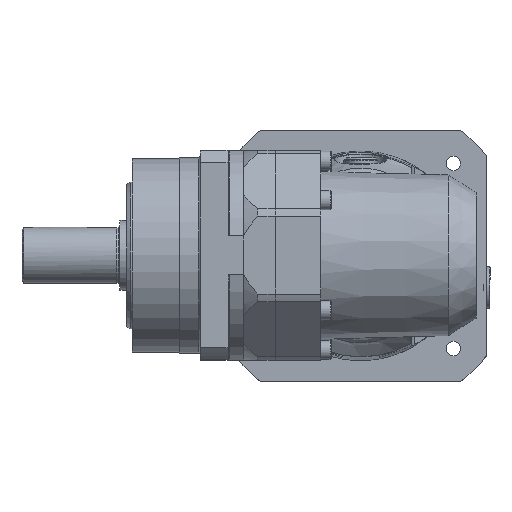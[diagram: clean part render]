
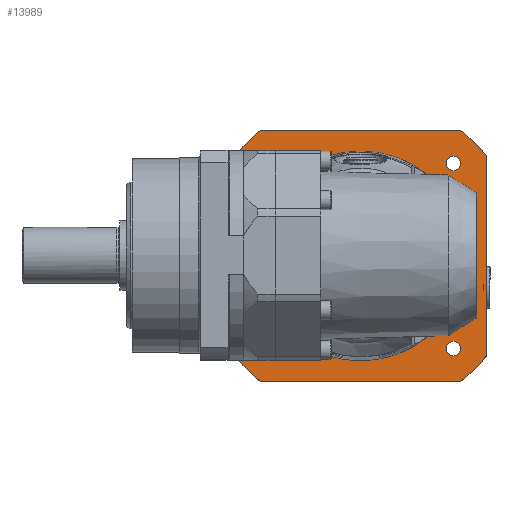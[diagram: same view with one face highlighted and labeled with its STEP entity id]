
A CAD part, top view. The second image highlights one B-rep face of the part: STEP entity #13989.
In plain terms, the highlighted planar face has unit normal (0, 0, 1) as drawn and (-1, 0, 0) by its records, which use the part's own axes.
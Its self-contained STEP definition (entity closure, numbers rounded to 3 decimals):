
#1042=FACE_BOUND('',#2999,.T.);
#1043=FACE_BOUND('',#3000,.T.);
#1044=FACE_BOUND('',#3001,.T.);
#1045=FACE_BOUND('',#3002,.T.);
#1046=FACE_BOUND('',#3003,.T.);
#1328=PLANE('',#16343);
#2053=FACE_OUTER_BOUND('',#2998,.T.);
#2998=EDGE_LOOP('',(#12775,#12776,#12777,#12778,#12779,#12780,#12781,#12782));
#2999=EDGE_LOOP('',(#12783));
#3000=EDGE_LOOP('',(#12784));
#3001=EDGE_LOOP('',(#12785));
#3002=EDGE_LOOP('',(#12786));
#3003=EDGE_LOOP('',(#12787,#12788));
#3816=LINE('',#27188,#4496);
#3819=LINE('',#27194,#4499);
#3822=LINE('',#27200,#4502);
#3825=LINE('',#27209,#4505);
#4496=VECTOR('',#20625,10.);
#4499=VECTOR('',#20630,10.);
#4502=VECTOR('',#20635,10.);
#4505=VECTOR('',#20646,10.);
#5543=CIRCLE('',#16344,46.);
#5544=CIRCLE('',#16345,46.);
#5545=CIRCLE('',#16346,46.);
#5546=CIRCLE('',#16347,46.);
#5547=CIRCLE('',#16348,2.067);
#5548=CIRCLE('',#16349,2.067);
#5549=CIRCLE('',#16350,2.067);
#5550=CIRCLE('',#16351,2.067);
#5551=CIRCLE('',#16352,30.);
#5552=CIRCLE('',#16353,30.);
#7034=VERTEX_POINT('',#27186);
#7035=VERTEX_POINT('',#27187);
#7036=VERTEX_POINT('',#27192);
#7037=VERTEX_POINT('',#27193);
#7038=VERTEX_POINT('',#27198);
#7039=VERTEX_POINT('',#27199);
#7040=VERTEX_POINT('',#27206);
#7041=VERTEX_POINT('',#27208);
#7042=VERTEX_POINT('',#27211);
#7043=VERTEX_POINT('',#27213);
#7044=VERTEX_POINT('',#27215);
#7045=VERTEX_POINT('',#27217);
#7046=VERTEX_POINT('',#27219);
#7047=VERTEX_POINT('',#27220);
#8974=EDGE_CURVE('',#7034,#7035,#3816,.T.);
#8977=EDGE_CURVE('',#7036,#7037,#3819,.T.);
#8980=EDGE_CURVE('',#7038,#7039,#3822,.T.);
#8983=EDGE_CURVE('',#7036,#7035,#5543,.T.);
#8984=EDGE_CURVE('',#7038,#7037,#5544,.T.);
#8985=EDGE_CURVE('',#7040,#7039,#5545,.T.);
#8986=EDGE_CURVE('',#7040,#7041,#3825,.T.);
#8987=EDGE_CURVE('',#7034,#7041,#5546,.T.);
#8988=EDGE_CURVE('',#7042,#7042,#5547,.T.);
#8989=EDGE_CURVE('',#7043,#7043,#5548,.T.);
#8990=EDGE_CURVE('',#7044,#7044,#5549,.T.);
#8991=EDGE_CURVE('',#7045,#7045,#5550,.T.);
#8992=EDGE_CURVE('',#7046,#7047,#5551,.T.);
#8993=EDGE_CURVE('',#7047,#7046,#5552,.T.);
#12775=ORIENTED_EDGE('',*,*,#8974,.T.);
#12776=ORIENTED_EDGE('',*,*,#8983,.F.);
#12777=ORIENTED_EDGE('',*,*,#8977,.T.);
#12778=ORIENTED_EDGE('',*,*,#8984,.F.);
#12779=ORIENTED_EDGE('',*,*,#8980,.T.);
#12780=ORIENTED_EDGE('',*,*,#8985,.F.);
#12781=ORIENTED_EDGE('',*,*,#8986,.T.);
#12782=ORIENTED_EDGE('',*,*,#8987,.F.);
#12783=ORIENTED_EDGE('',*,*,#8988,.T.);
#12784=ORIENTED_EDGE('',*,*,#8989,.T.);
#12785=ORIENTED_EDGE('',*,*,#8990,.T.);
#12786=ORIENTED_EDGE('',*,*,#8991,.T.);
#12787=ORIENTED_EDGE('',*,*,#8992,.T.);
#12788=ORIENTED_EDGE('',*,*,#8993,.T.);
#13989=ADVANCED_FACE('',(#2053,#1042,#1043,#1044,#1045,#1046),#1328,.T.);
#16343=AXIS2_PLACEMENT_3D('',#27203,#20638,#20639);
#16344=AXIS2_PLACEMENT_3D('',#27204,#20640,#20641);
#16345=AXIS2_PLACEMENT_3D('',#27205,#20642,#20643);
#16346=AXIS2_PLACEMENT_3D('',#27207,#20644,#20645);
#16347=AXIS2_PLACEMENT_3D('',#27210,#20647,#20648);
#16348=AXIS2_PLACEMENT_3D('',#27212,#20649,#20650);
#16349=AXIS2_PLACEMENT_3D('',#27214,#20651,#20652);
#16350=AXIS2_PLACEMENT_3D('',#27216,#20653,#20654);
#16351=AXIS2_PLACEMENT_3D('',#27218,#20655,#20656);
#16352=AXIS2_PLACEMENT_3D('',#27221,#20657,#20658);
#16353=AXIS2_PLACEMENT_3D('',#27222,#20659,#20660);
#20625=DIRECTION('',(0.,-0.707,-0.707));
#20630=DIRECTION('',(0.,-0.707,0.707));
#20635=DIRECTION('',(0.,0.707,0.707));
#20638=DIRECTION('center_axis',(-1.,0.,0.));
#20639=DIRECTION('ref_axis',(0.,0.,1.));
#20640=DIRECTION('center_axis',(1.,0.,0.));
#20641=DIRECTION('ref_axis',(0.,1.,0.));
#20642=DIRECTION('center_axis',(1.,0.,0.));
#20643=DIRECTION('ref_axis',(0.,1.,0.));
#20644=DIRECTION('center_axis',(1.,0.,0.));
#20645=DIRECTION('ref_axis',(0.,1.,0.));
#20646=DIRECTION('',(0.,0.707,-0.707));
#20647=DIRECTION('center_axis',(1.,0.,0.));
#20648=DIRECTION('ref_axis',(0.,1.,0.));
#20649=DIRECTION('center_axis',(1.,0.,0.));
#20650=DIRECTION('ref_axis',(0.,0.,-1.));
#20651=DIRECTION('center_axis',(1.,0.,0.));
#20652=DIRECTION('ref_axis',(0.,0.,-1.));
#20653=DIRECTION('center_axis',(1.,0.,0.));
#20654=DIRECTION('ref_axis',(0.,0.,-1.));
#20655=DIRECTION('center_axis',(1.,0.,0.));
#20656=DIRECTION('ref_axis',(0.,0.,-1.));
#20657=DIRECTION('center_axis',(1.,0.,0.));
#20658=DIRECTION('ref_axis',(0.,1.,0.));
#20659=DIRECTION('center_axis',(1.,0.,0.));
#20660=DIRECTION('ref_axis',(0.,1.,0.));
#27186=CARTESIAN_POINT('',(4.,45.704,-5.207));
#27187=CARTESIAN_POINT('',(4.,5.207,-45.704));
#27188=CARTESIAN_POINT('',(4.,45.08,-5.832));
#27192=CARTESIAN_POINT('',(4.,-5.207,-45.704));
#27193=CARTESIAN_POINT('',(4.,-45.704,-5.207));
#27194=CARTESIAN_POINT('',(4.,-5.832,-45.08));
#27198=CARTESIAN_POINT('',(4.,-45.704,5.207));
#27199=CARTESIAN_POINT('',(4.,-5.207,45.704));
#27200=CARTESIAN_POINT('',(4.,-26.08,24.832));
#27203=CARTESIAN_POINT('Origin',(4.,38.,0.));
#27204=CARTESIAN_POINT('Origin',(4.,0.,0.));
#27205=CARTESIAN_POINT('Origin',(4.,0.,0.));
#27206=CARTESIAN_POINT('',(4.,5.207,45.704));
#27207=CARTESIAN_POINT('Origin',(4.,0.,0.));
#27208=CARTESIAN_POINT('',(4.,45.704,5.207));
#27209=CARTESIAN_POINT('',(4.,24.832,26.08));
#27210=CARTESIAN_POINT('Origin',(4.,0.,0.));
#27211=CARTESIAN_POINT('',(4.,-37.5,2.067));
#27212=CARTESIAN_POINT('Origin',(4.,-37.5,0.));
#27213=CARTESIAN_POINT('',(4.,37.5,2.067));
#27214=CARTESIAN_POINT('Origin',(4.,37.5,0.));
#27215=CARTESIAN_POINT('',(4.,0.,39.567));
#27216=CARTESIAN_POINT('Origin',(4.,0.,
37.5));
#27217=CARTESIAN_POINT('',(4.,0.,-35.433));
#27218=CARTESIAN_POINT('Origin',(4.,0.,
-37.5));
#27219=CARTESIAN_POINT('',(4.,30.,0.));
#27220=CARTESIAN_POINT('',(4.,-30.,0.));
#27221=CARTESIAN_POINT('Origin',(4.,0.,0.));
#27222=CARTESIAN_POINT('Origin',(4.,0.,0.));
